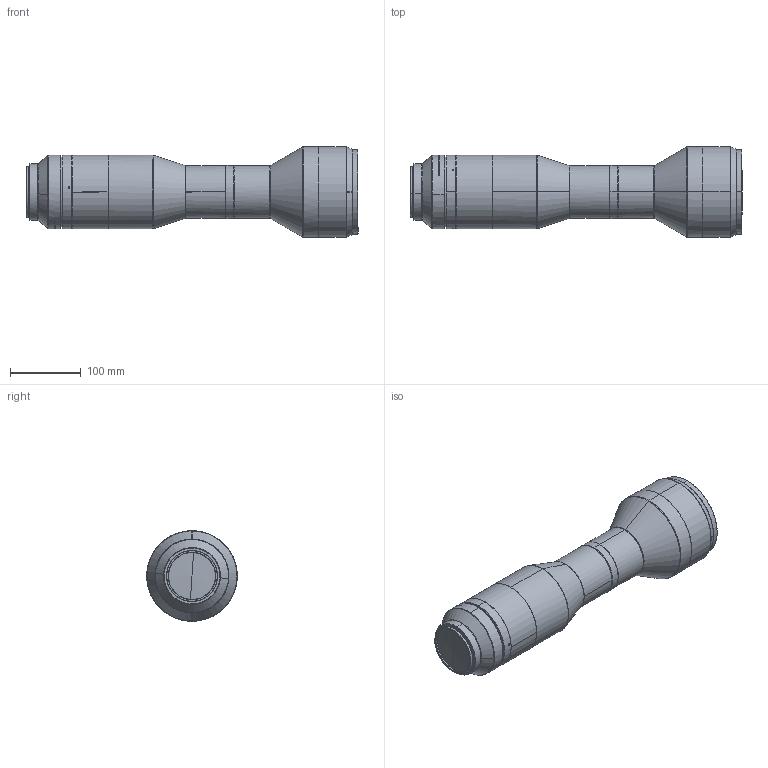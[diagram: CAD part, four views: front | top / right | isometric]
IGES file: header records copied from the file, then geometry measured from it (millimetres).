
Start section: SolidWorks IGES file using analytic representation for surfaces
Global section: file name: E:\图纸\李娜\DTCA\新建文件夹\DTCA16K-88G-M72-AL.IGS; native system: SolidWorks 2017; preprocessor: SolidWorks 2017; author: gc; date: 230328.135350; units: millimetre
Bounding box: 469.35 x 128 x 128 mm (x, y, z)
Surface area: 169415 mm2 (no closed solid volume)
Topology: 0 solids, 0 shells, 139 faces, 2672 edges, 2668 vertices
Faces by surface type: revolution 100, bspline 39
